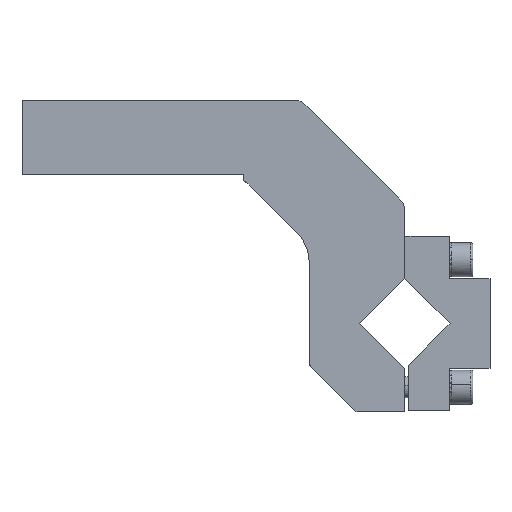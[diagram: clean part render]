
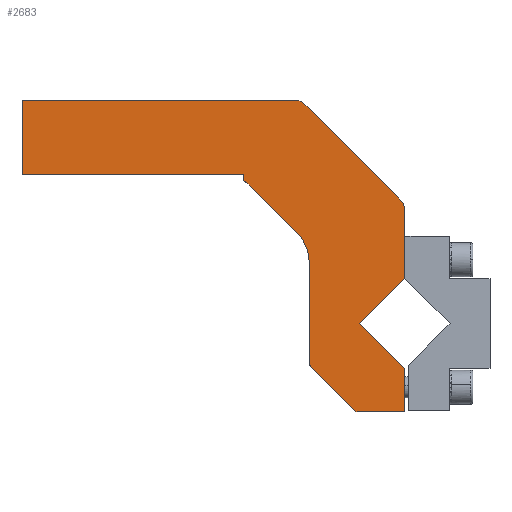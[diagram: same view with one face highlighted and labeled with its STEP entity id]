
A CAD part, top view. The second image highlights one B-rep face of the part: STEP entity #2683.
In plain terms, the highlighted planar face has unit normal (0, 0, 1).
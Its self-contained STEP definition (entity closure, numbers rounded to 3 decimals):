
#2426=CARTESIAN_POINT('',(179.,-33.787,25.0));
#2427=VERTEX_POINT('',#2426);
#2434=CARTESIAN_POINT('',(157.787,-55.,25.0));
#2435=VERTEX_POINT('',#2434);
#2436=CARTESIAN_POINT('',(157.787,-55.,25.0));
#2437=DIRECTION('',(0.707,0.707,0.0));
#2438=VECTOR('',#2437,30.);
#2439=LINE('',#2436,#2438);
#2440=EDGE_CURVE('',#2435,#2427,#2439,.T.);
#2465=CARTESIAN_POINT('',(179.,-76.213,25.0));
#2466=VERTEX_POINT('',#2465);
#2467=CARTESIAN_POINT('',(179.,-76.213,25.0));
#2468=DIRECTION('',(-0.707,0.707,0.0));
#2469=VECTOR('',#2468,30.);
#2470=LINE('',#2467,#2469);
#2471=EDGE_CURVE('',#2466,#2435,#2470,.T.);
#2544=CARTESIAN_POINT('',(107.515,-3.558,25.0));
#2545=DIRECTION('',(0.0,0.0,1.0));
#2546=DIRECTION('',(1.0,0.0,0.0));
#2547=AXIS2_PLACEMENT_3D('',#2544,#2545,#2546);
#2548=PLANE('',#2547);
#2549=ORIENTED_EDGE('',*,*,#2471,.T.);
#2550=ORIENTED_EDGE('',*,*,#2440,.T.);
#2551=CARTESIAN_POINT('',(179.,-14.,25.));
#2552=VERTEX_POINT('',#2551);
#2553=CARTESIAN_POINT('',(179.,-14.,25.));
#2554=DIRECTION('',(0.0,-1.0,0.0));
#2555=VECTOR('',#2554,19.787);
#2556=LINE('',#2553,#2555);
#2557=EDGE_CURVE('',#2552,#2427,#2556,.T.);
#2558=ORIENTED_EDGE('',*,*,#2557,.F.);
#2559=CARTESIAN_POINT('',(179.,-0.282,25.0));
#2560=VERTEX_POINT('',#2559);
#2561=CARTESIAN_POINT('',(179.,-0.282,25.0));
#2562=DIRECTION('',(0.0,-1.0,0.0));
#2563=VECTOR('',#2562,13.718);
#2564=LINE('',#2561,#2563);
#2565=EDGE_CURVE('',#2560,#2552,#2564,.T.);
#2566=ORIENTED_EDGE('',*,*,#2565,.F.);
#2567=CARTESIAN_POINT('',(175.142,5.142,25.0));
#2568=VERTEX_POINT('',#2567);
#2569=CARTESIAN_POINT('',(161.,-9.,25.0));
#2570=DIRECTION('',(0.0,0.0,-1.));
#2571=DIRECTION('',(0.9,0.436,0.0));
#2572=AXIS2_PLACEMENT_3D('',#2569,#2570,#2571);
#2573=CIRCLE('',#2572,20.);
#2574=EDGE_CURVE('',#2568,#2560,#2573,.T.);
#2575=ORIENTED_EDGE('',*,*,#2574,.F.);
#2576=CARTESIAN_POINT('',(134.142,46.142,25.0));
#2577=VERTEX_POINT('',#2576);
#2578=CARTESIAN_POINT('',(134.142,46.142,25.0));
#2579=DIRECTION('',(0.707,-0.707,0.0));
#2580=VECTOR('',#2579,57.983);
#2581=LINE('',#2578,#2580);
#2582=EDGE_CURVE('',#2577,#2568,#2581,.T.);
#2583=ORIENTED_EDGE('',*,*,#2582,.F.);
#2584=CARTESIAN_POINT('',(128.718,50.,25.0));
#2585=VERTEX_POINT('',#2584);
#2586=CARTESIAN_POINT('',(120.,32.,25.0));
#2587=DIRECTION('',(0.0,0.0,-1.));
#2588=DIRECTION('',(0.707,0.707,0.0));
#2589=AXIS2_PLACEMENT_3D('',#2586,#2587,#2588);
#2590=CIRCLE('',#2589,20.0);
#2591=EDGE_CURVE('',#2585,#2577,#2590,.T.);
#2592=ORIENTED_EDGE('',*,*,#2591,.F.);
#2593=CARTESIAN_POINT('',(-1.,50.,25.0));
#2594=VERTEX_POINT('',#2593);
#2595=CARTESIAN_POINT('',(-1.,50.,25.0));
#2596=DIRECTION('',(1.0,0.0,0.0));
#2597=VECTOR('',#2596,129.718);
#2598=LINE('',#2595,#2597);
#2599=EDGE_CURVE('',#2594,#2585,#2598,.T.);
#2600=ORIENTED_EDGE('',*,*,#2599,.F.);
#2601=CARTESIAN_POINT('',(-1.,15.,25.0));
#2602=VERTEX_POINT('',#2601);
#2603=CARTESIAN_POINT('',(-1.,15.,25.0));
#2604=DIRECTION('',(0.0,1.0,0.0));
#2605=VECTOR('',#2604,35.0);
#2606=LINE('',#2603,#2605);
#2607=EDGE_CURVE('',#2602,#2594,#2606,.T.);
#2608=ORIENTED_EDGE('',*,*,#2607,.F.);
#2609=CARTESIAN_POINT('',(103.,15.,25.0));
#2610=VERTEX_POINT('',#2609);
#2611=CARTESIAN_POINT('',(103.,15.,25.0));
#2612=DIRECTION('',(-1.0,0.0,0.0));
#2613=VECTOR('',#2612,104.);
#2614=LINE('',#2611,#2613);
#2615=EDGE_CURVE('',#2610,#2602,#2614,.T.);
#2616=ORIENTED_EDGE('',*,*,#2615,.F.);
#2617=CARTESIAN_POINT('',(103.0,12.102,25.0));
#2618=VERTEX_POINT('',#2617);
#2619=CARTESIAN_POINT('',(103.0,12.102,25.0));
#2620=DIRECTION('',(0.0,1.0,0.0));
#2621=VECTOR('',#2620,2.898);
#2622=LINE('',#2619,#2621);
#2623=EDGE_CURVE('',#2618,#2610,#2622,.T.);
#2624=ORIENTED_EDGE('',*,*,#2623,.F.);
#2625=CARTESIAN_POINT('',(105.929,10.071,25.0));
#2626=VERTEX_POINT('',#2625);
#2627=CARTESIAN_POINT('',(98.858,3.,25.0));
#2628=DIRECTION('',(0.0,0.0,1.));
#2629=DIRECTION('',(-0.707,-0.707,0.0));
#2630=AXIS2_PLACEMENT_3D('',#2627,#2628,#2629);
#2631=CIRCLE('',#2630,10.);
#2632=EDGE_CURVE('',#2626,#2618,#2631,.T.);
#2633=ORIENTED_EDGE('',*,*,#2632,.F.);
#2634=CARTESIAN_POINT('',(128.142,-12.142,25.0));
#2635=VERTEX_POINT('',#2634);
#2636=CARTESIAN_POINT('',(128.142,-12.142,25.0));
#2637=DIRECTION('',(-0.707,0.707,0.0));
#2638=VECTOR('',#2637,31.414);
#2639=LINE('',#2636,#2638);
#2640=EDGE_CURVE('',#2635,#2626,#2639,.T.);
#2641=ORIENTED_EDGE('',*,*,#2640,.F.);
#2642=CARTESIAN_POINT('',(134.0,-26.284,25.0));
#2643=VERTEX_POINT('',#2642);
#2644=CARTESIAN_POINT('',(114.,-26.284,25.0));
#2645=DIRECTION('',(0.0,0.0,1.0));
#2646=DIRECTION('',(-1.0,0.0,0.0));
#2647=AXIS2_PLACEMENT_3D('',#2644,#2645,#2646);
#2648=CIRCLE('',#2647,20.0);
#2649=EDGE_CURVE('',#2643,#2635,#2648,.T.);
#2650=ORIENTED_EDGE('',*,*,#2649,.F.);
#2651=CARTESIAN_POINT('',(134.0,-74.5,25.0));
#2652=VERTEX_POINT('',#2651);
#2653=CARTESIAN_POINT('',(134.0,-74.5,25.0));
#2654=DIRECTION('',(0.0,1.0,0.0));
#2655=VECTOR('',#2654,48.216);
#2656=LINE('',#2653,#2655);
#2657=EDGE_CURVE('',#2652,#2643,#2656,.T.);
#2658=ORIENTED_EDGE('',*,*,#2657,.F.);
#2659=CARTESIAN_POINT('',(156.,-96.5,25.0));
#2660=VERTEX_POINT('',#2659);
#2661=CARTESIAN_POINT('',(156.,-96.5,25.0));
#2662=DIRECTION('',(-0.707,0.707,0.0));
#2663=VECTOR('',#2662,31.113);
#2664=LINE('',#2661,#2663);
#2665=EDGE_CURVE('',#2660,#2652,#2664,.T.);
#2666=ORIENTED_EDGE('',*,*,#2665,.F.);
#2667=CARTESIAN_POINT('',(179.,-96.5,25.0));
#2668=VERTEX_POINT('',#2667);
#2669=CARTESIAN_POINT('',(179.,-96.5,25.0));
#2670=DIRECTION('',(-1.0,0.0,0.0));
#2671=VECTOR('',#2670,23.);
#2672=LINE('',#2669,#2671);
#2673=EDGE_CURVE('',#2668,#2660,#2672,.T.);
#2674=ORIENTED_EDGE('',*,*,#2673,.F.);
#2675=CARTESIAN_POINT('',(179.,-76.213,25.0));
#2676=DIRECTION('',(0.0,-1.0,0.0));
#2677=VECTOR('',#2676,20.287);
#2678=LINE('',#2675,#2677);
#2679=EDGE_CURVE('',#2466,#2668,#2678,.T.);
#2680=ORIENTED_EDGE('',*,*,#2679,.F.);
#2681=EDGE_LOOP('',(#2549,#2550,#2558,#2566,#2575,#2583,#2592,#2600,#2608,#2616,#2624,#2633,#2641,#2650,#2658,#2666,#2674,#2680));
#2682=FACE_OUTER_BOUND('',#2681,.T.);
#2683=ADVANCED_FACE('',(#2682),#2548,.T.);
